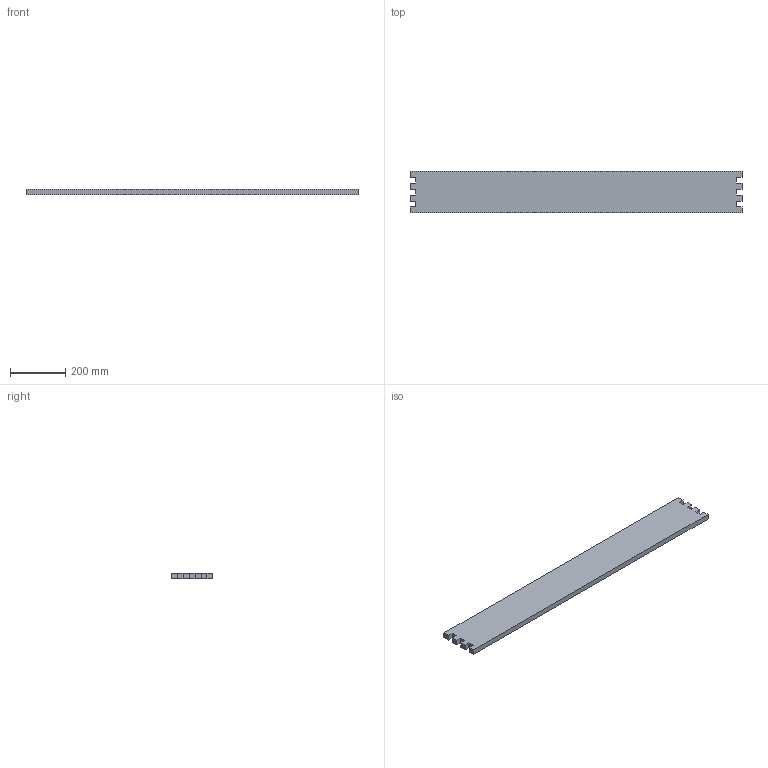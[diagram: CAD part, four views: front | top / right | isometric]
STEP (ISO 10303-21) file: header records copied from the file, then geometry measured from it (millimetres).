
FILE_DESCRIPTION(/* description */ (''),/* implementation_level */ '2;1');
FILE_NAME(/* name */ 'plancheAR',/* time_stamp */ '2019-11-27T11:25:15+01:00',/* author */ (''),/* organization */ (''),/* preprocessor_version */ 'ST-DEVELOPER v8',/* originating_system */ '',/* authorisation */ '');
FILE_SCHEMA (('CONFIG_CONTROL_DESIGN'));
Length unit declared in the file: millimetre
Products named in the file (1): 1
Bounding box: 1200 x 150 x 20 mm (x, y, z)
Volume: 3549600 mm3; surface area: 413760 mm2
Topology: 1 solids, 1 shells, 30 faces, 112 edges, 56 vertices
Faces by surface type: bspline 30
Entity records: 1058 total; most frequent: CARTESIAN_POINT 372, ORIENTED_EDGE 168, EDGE_CURVE 84, B_SPLINE_CURVE_WITH_KNOTS 84, VERTEX_POINT 56, ADVANCED_FACE 30, FACE_OUTER_BOUND 30, EDGE_LOOP 30
